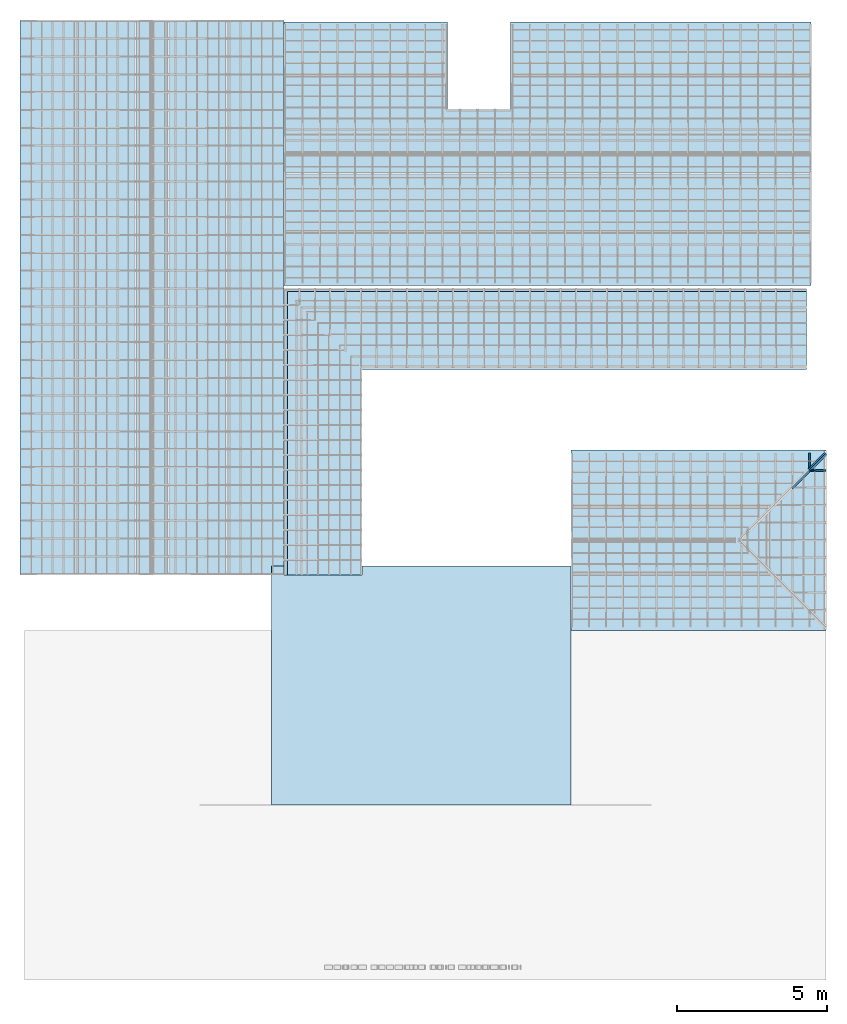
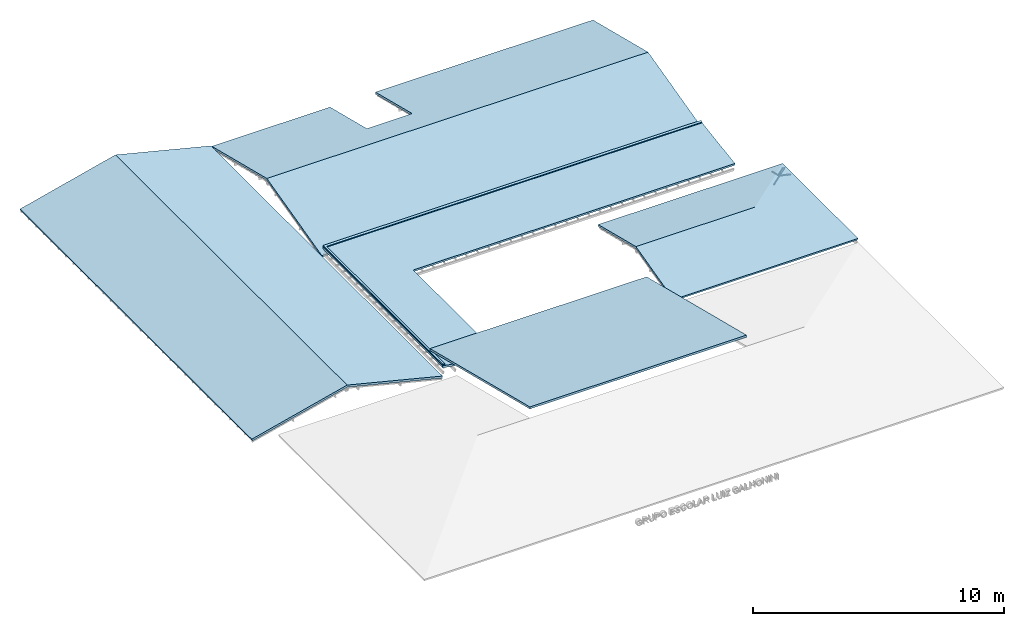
# One storey, part 9 of 10: 6 roofs, 5 members, 1 element without a shape of its own.
"""IFC2X3 building model written with IfcOpenShell, lengths in metres."""

from ifc_helpers import new_model, entity, si_unit, converted_unit, derived_unit, direction, frame, frame_2d, origin, origin_2d_with_axis, place, context, subcontext, project, spatial, rectangle, extrude, clip, halfspace, faceted_brep, source, transform, mapped, material, type_object, type_shapes, element, aggregate, save


model = new_model("IFC2X3")

# Units and contexts
model_context = context("Model", 3, precision=1e-05, world=origin(), true_north=direction((6.12303176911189e-17, 1.0)))
body_context = subcontext(model_context, "Body", "Model", "MODEL_VIEW")
ifc_project = project(units=[si_unit("LENGTHUNIT", "METRE"), si_unit("AREAUNIT", "SQUARE_METRE"), si_unit("VOLUMEUNIT", "CUBIC_METRE"), converted_unit("PLANEANGLEUNIT", "DEGREE", entity("IfcRatioMeasure", 0.0174532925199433), si_unit("PLANEANGLEUNIT", "RADIAN"), dimensions=[0, 0, 0, 0, 0, 0, 0]), si_unit("MASSUNIT", "GRAM", prefix="KILO"), derived_unit("MASSDENSITYUNIT", [(si_unit("MASSUNIT", "GRAM", prefix="KILO"), 1), (si_unit("LENGTHUNIT", "METRE"), -3)]), si_unit("TIMEUNIT", "SECOND"), si_unit("FREQUENCYUNIT", "HERTZ"), si_unit("THERMODYNAMICTEMPERATUREUNIT", "DEGREE_CELSIUS"), derived_unit("THERMALTRANSMITTANCEUNIT", [(si_unit("MASSUNIT", "GRAM", prefix="KILO"), 1), (si_unit("THERMODYNAMICTEMPERATUREUNIT", "KELVIN"), -1), (si_unit("TIMEUNIT", "SECOND"), -3)]), derived_unit("VOLUMETRICFLOWRATEUNIT", [(si_unit("LENGTHUNIT", "METRE"), 3), (si_unit("TIMEUNIT", "SECOND"), -1)]), si_unit("ELECTRICCURRENTUNIT", "AMPERE"), si_unit("ELECTRICVOLTAGEUNIT", "VOLT"), si_unit("POWERUNIT", "WATT"), si_unit("FORCEUNIT", "NEWTON", prefix="KILO"), si_unit("ILLUMINANCEUNIT", "LUX"), si_unit("LUMINOUSFLUXUNIT", "LUMEN"), si_unit("LUMINOUSINTENSITYUNIT", "CANDELA"), derived_unit("USERDEFINED", [(si_unit("MASSUNIT", "GRAM", prefix="KILO"), -1), (si_unit("LENGTHUNIT", "METRE"), -2), (si_unit("TIMEUNIT", "SECOND"), 3), (si_unit("LUMINOUSFLUXUNIT", "LUMEN"), 1)]), derived_unit("LINEARVELOCITYUNIT", [(si_unit("LENGTHUNIT", "METRE"), 1), (si_unit("TIMEUNIT", "SECOND"), -1)]), si_unit("PRESSUREUNIT", "PASCAL"), derived_unit("USERDEFINED", [(si_unit("LENGTHUNIT", "METRE"), -2), (si_unit("MASSUNIT", "GRAM", prefix="KILO"), 1), (si_unit("TIMEUNIT", "SECOND"), -2)])], contexts=[model_context])

# Site, building, storey
site_placement = place(None, frame((26.9889013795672, -17.5624287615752, 0.0)))
site = spatial("IfcSite", under=ifc_project, at=site_placement, Name="Default", CompositionType="ELEMENT")
building_placement = place(site_placement, origin())
building = spatial("IfcBuilding", under=site, at=building_placement, Name="C. C. L. Monsenhor Antônio Sampaio", CompositionType="ELEMENT")
storey_placement = place(building_placement, frame((0.0, 0.0, 4.3)))
storey = spatial("IfcBuildingStorey", under=building, at=storey_placement, Name="COBERTURA BLOCO 01", CompositionType="ELEMENT", Elevation=4.3)

# Roof, members
curtain_wall_type = type_object("IfcCurtainWallType", PredefinedType="NOTDEFINED")
roof_1_placement = place(storey_placement, frame((0.0, 0.0, -4.3)))
roof_1 = element("IfcRoof", 1, at=roof_1_placement, inside=storey, type_object=curtain_wall_type, ShapeType="NOTDEFINED")
ifc_material_1 = material(Name=".Madeira")
member_type_1 = type_object("IfcMemberType", Name="Caibro", PredefinedType="MEMBER")
shared_shape_1 = source(origin(), body_context, "Body", "SweptSolid", [
    extrude(rectangle(XDim=0.06, YDim=0.0499999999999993, at=frame_2d((0.0, -2.60208521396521e-17), x_axis=(1.0, 0.0))), frame((-0.0249999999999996, -0.03, -0.775594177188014), z_axis=(0.0, 0.0, 1.0), x_axis=(0.0, -1.0, 0.0)), (0.0, 0.0, 1.0), 0.775594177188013),
])
type_shapes(member_type_1, [shared_shape_1])
member_1_placement = place(storey_placement, frame((12.2051941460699, -22.4073199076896, 1.65221867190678), z_axis=(0.696310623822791, 0.696310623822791, -0.174077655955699), x_axis=(0.717740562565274, -0.675520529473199, 0.168880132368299)))
member_1 = element("IfcMember", 2, at=member_1_placement, type_object=member_type_1, material=ifc_material_1, Name="Rectangular Mullion:Caibro", ObjectType="Caibro", context=body_context, shape_type="MappedRepresentation", body=[
    mapped(shared_shape_1, transform((0.0, 0.0, 0.0), scale=1.0)),
])
member_type_2 = type_object("IfcMemberType", Name="Caibro", PredefinedType="MEMBER")
shared_shape_2 = source(origin(), body_context, "Body", "Clipping", [
    clip(extrude(rectangle(XDim=0.06, YDim=0.0499999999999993, at=origin_2d_with_axis()), frame((0.0, -0.03, -0.556675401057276), z_axis=(0.0, 0.0, 1.0), x_axis=(0.0, -1.0, 0.0)), (0.0, 0.0, 1.0), 0.51063777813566), halfspace(frame((-0.504167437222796, 91.44, -0.591490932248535), z_axis=(-0.717740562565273, 0.0, 0.696310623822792), x_axis=(0.696310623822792, 0.0, 0.717740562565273)), False)),
])
type_shapes(member_type_2, [shared_shape_2])
member_2_placement = place(storey_placement, frame((11.6651396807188, -22.9473743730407, 1.78723228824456), z_axis=(0.0, -0.970142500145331, 0.242535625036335), x_axis=(-1.0, 0.0, 0.0)))
member_2 = element("IfcMember", 3, at=member_2_placement, type_object=member_type_2, material=ifc_material_1, Name="Rectangular Mullion:Caibro", ObjectType="Caibro", context=body_context, shape_type="MappedRepresentation", body=[
    mapped(shared_shape_2, transform((0.0, 0.0, 0.0), scale=1.0)),
])
member_type_3 = type_object("IfcMemberType", Name="Caibro", PredefinedType="MEMBER")
shared_shape_3 = source(origin(), body_context, "Body", "SweptSolid", [
    extrude(rectangle(XDim=0.06, YDim=0.0499999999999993, at=origin_2d_with_axis()), frame((-0.0249999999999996, -0.03, -0.836048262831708), z_axis=(0.0, 0.0, 1.0), x_axis=(0.0, -1.0, 0.0)), (0.0, 0.0, 1.0), 0.836048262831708),
])
type_shapes(member_type_3, [shared_shape_3])
member_3_placement = place(storey_placement, frame((11.0658955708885, -23.546618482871, 1.93704331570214), z_axis=(-0.696310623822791, -0.696310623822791, 0.174077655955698), x_axis=(-0.675520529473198, 0.717740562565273, 0.1688801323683)))
member_3 = element("IfcMember", 4, at=member_3_placement, type_object=member_type_3, material=ifc_material_1, Name="Rectangular Mullion:Caibro", ObjectType="Caibro", context=body_context, shape_type="MappedRepresentation", body=[
    mapped(shared_shape_3, transform((0.0, 0.0, 0.0), scale=1.0)),
])
member_type_4 = type_object("IfcMemberType", Name="Caibro", PredefinedType="MEMBER")
shared_shape_4 = source(origin(), body_context, "Body", "SweptSolid", [
    extrude(rectangle(XDim=0.06, YDim=0.0499999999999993, at=frame_2d((-2.08166817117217e-17, -5.03069808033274e-17), x_axis=(1.0, 0.0))), frame((-0.0249999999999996, -0.03, -0.800144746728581), z_axis=(0.0, 0.0, 1.0), x_axis=(0.0, -1.0, 0.0)), (0.0, 0.0, 1.0), 0.800144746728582),
])
type_shapes(member_type_4, [shared_shape_4])
member_4_placement = place(storey_placement, frame((11.6480448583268, -22.9644691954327, 1.79150599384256), z_axis=(-0.69631062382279, -0.696310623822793, 0.174077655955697), x_axis=(-0.6755205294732, 0.717740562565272, 0.1688801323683)))
member_4 = element("IfcMember", 5, at=member_4_placement, type_object=member_type_4, material=ifc_material_1, Name="Rectangular Mullion:Caibro", ObjectType="Caibro", context=body_context, shape_type="MappedRepresentation", body=[
    mapped(shared_shape_4, transform((0.0, 0.0, 0.0), scale=1.0)),
])
member_type_5 = type_object("IfcMemberType", Name="Caibro", PredefinedType="MEMBER")
shared_shape_5 = source(origin(), body_context, "Body", "Clipping", [
    clip(extrude(rectangle(XDim=0.06, YDim=0.0499999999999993, at=origin_2d_with_axis()), frame((0.0, -0.03, -0.574296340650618), z_axis=(0.0, 0.0, 1.0), x_axis=(0.0, -1.0, 0.0)), (0.0, 0.0, 1.0), 0.52825871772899), halfspace(frame((-0.0358870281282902, 91.44, -0.0348155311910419), z_axis=(0.717740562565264, 0.0, 0.696310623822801), x_axis=(0.696310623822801, 0.0, -0.717740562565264)), False)),
])
type_shapes(member_type_5, [shared_shape_5])
member_5_placement = place(storey_placement, frame((11.6480448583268, -22.9644691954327, 1.79150599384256), z_axis=(-0.970142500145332, 0.0, 0.242535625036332), x_axis=(0.0, 1.0, 0.0)))
member_5 = element("IfcMember", 6, at=member_5_placement, type_object=member_type_5, material=ifc_material_1, Name="Rectangular Mullion:Caibro", ObjectType="Caibro", context=body_context, shape_type="MappedRepresentation", body=[
    mapped(shared_shape_5, transform((0.0, 0.0, 0.0), scale=1.0)),
])
aggregate(roof_1, [member_1, member_2, member_3, member_4, member_5])

# Roofs
ifc_material_2 = material(Name=".Telha canal")
roof_2_placement = place(storey_placement, frame((-6.25555229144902, -34.1280663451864, 1.50606339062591)))
element("IfcRoof", 7, at=roof_2_placement, inside=storey, material=ifc_material_2, Name="Telhado básico:Telha Canal", ObjectType="Telhado básico:Telha Canal", ShapeType="NOTDEFINED", context=body_context, shape_type="Brep", body=[
    faceted_brep([(0.0, 0.0, 1.98768660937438), (9.9850000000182, 0.0, 1.98768660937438), (9.9850000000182, 0.0, 2.09076425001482), (0.0, 0.0, 2.09076425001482), (9.98500000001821, 7.95074643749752, 0.0), (9.98500000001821, 7.97500000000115, 0.097014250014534), (0.0, 7.95074643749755, 0.0), (0.0, 7.97500000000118, 0.097014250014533)], [[[0, 1, 2, 3]], [[1, 4, 5, 2]], [[6, 0, 3, 7]], [[1, 0, 6, 4]], [[3, 2, 5, 7]], [[4, 6, 7, 5]]]),
])
roof_3_placement = place(storey_placement, frame((-14.640552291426, -26.4530663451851, 0.206546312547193)))
element("IfcRoof", 8, at=roof_3_placement, inside=storey, material=ifc_material_2, Name="Telhado básico:Telha Canal", ObjectType="Telhado básico:Telha Canal", ShapeType="NOTDEFINED", context=body_context, shape_type="Brep", body=[
    faceted_brep([(8.76847036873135, 0.0, 0.0), (4.39636196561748, 0.0, 1.09302710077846), (4.3963619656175, 18.4961739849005, 1.09302710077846), (8.76847036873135, 18.4961739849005, 0.0), (8.79272393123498, 18.4961739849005, 0.0970142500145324), (4.3963619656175, 18.4961739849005, 1.1961047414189), (4.39636196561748, 0.0, 1.1961047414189), (8.79272393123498, 0.0, 0.0970142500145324), (0.024253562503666, 18.4961739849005, 0.0), (0.0, 18.4961739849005, 0.0970142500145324), (0.0242535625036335, 0.0, 0.0), (0.0, 0.0, 0.0970142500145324)], [[[0, 1, 2, 3]], [[4, 5, 6, 7]], [[0, 3, 4, 7]], [[3, 2, 8, 9, 5, 4]], [[2, 1, 10, 8]], [[6, 5, 9, 11]], [[1, 0, 7, 6, 11, 10]], [[8, 10, 11, 9]]]),
])
roof_4_placement = place(storey_placement, frame((-5.84055229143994, -16.8080663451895, 0.219046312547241)))
element("IfcRoof", 9, at=roof_4_placement, inside=storey, material=ifc_material_2, Name="Telhado básico:Telha Canal", ObjectType="Telhado básico:Telha Canal", ShapeType="NOTDEFINED", context=body_context, shape_type="Brep", body=[
    faceted_brep([(0.0, 4.39500000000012, 1.09268660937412), (0.0, 8.76574643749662, 0.0), (5.45000000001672, 8.7657464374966, 0.0), (5.45000000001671, 5.82574643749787, 0.734999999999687), (7.54000000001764, 5.82574643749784, 0.734999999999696), (7.54000000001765, 8.76574643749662, 0.0), (17.5700000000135, 8.76574643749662, 0.0), (17.5700000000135, 4.39500000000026, 1.09268660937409), (0.0, 8.79000000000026, 0.097014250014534), (0.0, 4.39500000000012, 1.19576425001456), (17.5700000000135, 4.39500000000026, 1.19576425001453), (17.5700000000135, 8.79000000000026, 0.097014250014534), (7.54000000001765, 8.79000000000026, 0.097014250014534), (7.54000000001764, 5.85000000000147, 0.832014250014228), (5.45000000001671, 5.85000000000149, 0.832014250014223), (5.45000000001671, 8.79000000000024, 0.0970142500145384), (0.0, 0.0242535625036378, 0.0), (0.0, 0.0, 0.097014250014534), (17.5700000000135, 0.0, 0.097014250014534), (17.5700000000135, 0.0242535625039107, 0.0)], [[[0, 1, 2, 3, 4, 5, 6, 7]], [[8, 9, 10, 11, 12, 13, 14, 15]], [[6, 5, 12, 11]], [[1, 0, 16, 17, 9, 8]], [[7, 6, 11, 10, 18, 19]], [[13, 4, 3, 14]], [[2, 1, 8, 15]], [[15, 14, 3, 2]], [[13, 12, 5, 4]], [[0, 7, 19, 16]], [[10, 9, 17, 18]], [[16, 19, 18, 17]]]),
])
roof_5_placement = place(storey_placement, frame((-5.84055229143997, -26.4530663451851, 0.3055813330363)))
element("IfcRoof", 10, at=roof_5_placement, inside=storey, material=ifc_material_2, Name="Telhado básico:Telha Canal", ObjectType="Telhado básico:Telha Canal", ShapeType="NOTDEFINED", context=body_context, shape_type="Brep", body=[
    faceted_brep([(2.58516595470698, 0.0, 0.0), (0.0, 0.0, 0.387774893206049), (0.0, 9.45000000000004, 0.387774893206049), (2.58516595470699, 6.86483404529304, 0.0), (0.0, 9.54999999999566, 0.402774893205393), (17.42, 9.5499999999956, 0.402774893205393), (17.42, 6.86483404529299, 0.0), (0.0, 0.0, 0.488893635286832), (2.6, 0.0, 0.0988936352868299), (2.60000000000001, 6.85000000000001, 0.0988936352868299), (0.0, 9.45000000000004, 0.488893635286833), (17.42, 6.84999999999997, 0.0988936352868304), (17.42, 9.5499999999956, 0.503893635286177), (0.0, 9.54999999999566, 0.503893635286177)], [[[0, 1, 2, 3]], [[3, 2, 4, 5, 6]], [[7, 8, 9, 10]], [[10, 9, 11, 12, 13]], [[6, 5, 12, 11]], [[5, 4, 13, 12]], [[2, 1, 7, 10, 13, 4]], [[0, 3, 9, 8]], [[3, 6, 11, 9]], [[1, 0, 8, 7]]]),
])
roof_6_placement = place(storey_placement, frame((3.72937716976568, -28.303066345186, 1.70529631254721)))
element("IfcRoof", 11, at=roof_6_placement, inside=storey, material=ifc_material_2, Name="Telhado básico:Telha Canal", ObjectType="Telhado básico:Telha Canal", ShapeType="NOTDEFINED", context=body_context, shape_type="Brep", body=[
    faceted_brep([(0.0, 0.0242535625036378, 0.0), (0.0, 3.01000000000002, 0.746436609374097), (5.49007053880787, 3.01, 0.746436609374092), (8.47581697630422, 0.0242535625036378, 0.0), (0.0, 5.99574643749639, 0.0), (8.47581697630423, 5.99574643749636, 0.0), (8.50007053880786, 0.0, 0.097014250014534), (5.49007053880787, 3.01, 0.849514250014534), (0.0, 3.01000000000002, 0.849514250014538), (0.0, 0.0, 0.097014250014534), (8.50007053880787, 6.02, 0.097014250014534), (0.0, 6.02000000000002, 0.0970142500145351)], [[[0, 1, 2, 3]], [[2, 1, 4, 5]], [[6, 7, 8, 9]], [[8, 7, 10, 11]], [[1, 0, 9, 8, 11, 4]], [[0, 3, 6, 9]], [[5, 4, 11, 10]], [[3, 2, 5]], [[7, 6, 10]], [[3, 5, 10, 6]]]),
])
ifc_material_3 = material(Name=".Concreto")
roof_7_placement = place(storey_placement, frame((-5.84055229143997, -26.4530663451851, 0.803031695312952)))
element("IfcRoof", 12, at=roof_7_placement, inside=storey, material=ifc_material_3, Name="Telhado básico:Algeroz", ObjectType="Telhado básico:Algeroz", ShapeType="NOTDEFINED", context=body_context, shape_type="Brep", body=[
    faceted_brep([(0.00602911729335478, 9.54999999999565, 0.0224254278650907), (17.42, 9.5499999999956, 0.0224254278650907), (17.42, 9.46029828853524, 0.0), (0.0957308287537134, 9.46029828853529, 0.0), (0.0957308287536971, 0.0, 0.0), (0.0, 0.0, 0.0239327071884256), (0.0, 9.54999999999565, 0.0239327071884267), (17.42, 9.5499999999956, 0.0739642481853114), (0.00602911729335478, 9.54999999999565, 0.0739642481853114), (0.107857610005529, 9.44817150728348, 0.0485071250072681), (17.42, 9.44817150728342, 0.0485071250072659), (0.0, 9.54999999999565, 0.0754715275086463), (0.0, 0.0, 0.0754715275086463), (0.107857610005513, 0.0, 0.0485071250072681)], [[[0, 1, 2, 3]], [[0, 3, 4, 5, 6]], [[7, 8, 9, 10]], [[9, 8, 11, 12, 13]], [[1, 0, 6, 11, 8, 7]], [[2, 1, 7, 10]], [[6, 5, 12, 11]], [[5, 4, 13, 12]], [[4, 3, 9, 13]], [[3, 2, 10, 9]]]),
])

save(model, "model.ifc")
